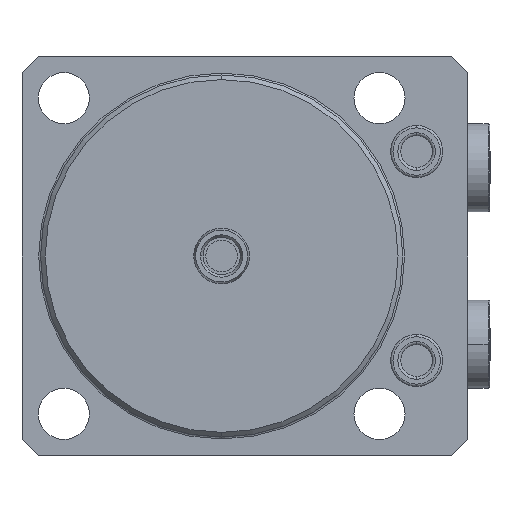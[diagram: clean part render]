
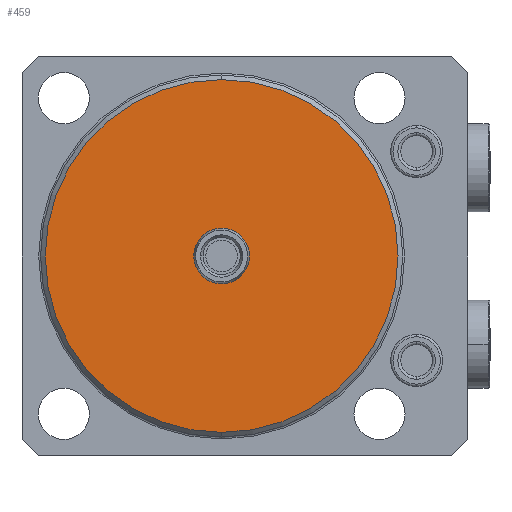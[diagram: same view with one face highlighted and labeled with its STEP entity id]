
A CAD part, front view. The second image highlights one B-rep face of the part: STEP entity #459.
In plain terms, the highlighted planar face has unit normal (0, -1, 0) as drawn and (0, 1, 0) by its records, which use the part's own axes.
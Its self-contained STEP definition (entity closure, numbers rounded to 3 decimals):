
#198=PLANE('',#4790);
#308=FACE_BOUND('',#1103,.F.);
#309=FACE_BOUND('',#1104,.F.);
#459=ADVANCED_FACE('',(#308,#309),#198,.T.);
#1103=EDGE_LOOP('',(#1956,#1957));
#1104=EDGE_LOOP('',(#1958,#1959));
#1385=CIRCLE('',#4675,6.);
#1440=CIRCLE('',#4753,38.);
#1459=CIRCLE('',#4788,6.);
#1460=CIRCLE('',#4789,38.);
#1956=ORIENTED_EDGE('',*,*,#3602,.T.);
#1957=ORIENTED_EDGE('',*,*,#3422,.T.);
#1958=ORIENTED_EDGE('',*,*,#3603,.T.);
#1959=ORIENTED_EDGE('',*,*,#3510,.T.);
#2996=VERTEX_POINT('',#6787);
#2997=VERTEX_POINT('',#6788);
#3068=VERTEX_POINT('',#6975);
#3069=VERTEX_POINT('',#6976);
#3422=EDGE_CURVE('',#2996,#2997,#1385,.T.);
#3510=EDGE_CURVE('',#3068,#3069,#1440,.T.);
#3602=EDGE_CURVE('',#2997,#2996,#1459,.T.);
#3603=EDGE_CURVE('',#3069,#3068,#1460,.T.);
#4675=AXIS2_PLACEMENT_3D('',#6786,#5317,#5318);
#4753=AXIS2_PLACEMENT_3D('',#6974,#5505,#5506);
#4788=AXIS2_PLACEMENT_3D('',#7241,#5624,#5625);
#4789=AXIS2_PLACEMENT_3D('',#7242,#5626,#5627);
#4790=AXIS2_PLACEMENT_3D('',#7243,#5628,#5629);
#5317=DIRECTION('',(0.,1.,0.));
#5318=DIRECTION('',(0.,0.,1.));
#5505=DIRECTION('',(0.,-1.,0.));
#5506=DIRECTION('',(0.,0.,1.));
#5624=DIRECTION('',(0.,1.,0.));
#5625=DIRECTION('',(0.,0.,1.));
#5626=DIRECTION('',(0.,-1.,0.));
#5627=DIRECTION('',(0.,0.,1.));
#5628=DIRECTION('',(0.,1.,0.));
#5629=DIRECTION('',(0.,0.,1.));
#6786=CARTESIAN_POINT('',(0.,-55.,0.));
#6787=CARTESIAN_POINT('',(0.,-55.,-6.));
#6788=CARTESIAN_POINT('',(0.,-55.,6.));
#6974=CARTESIAN_POINT('',(0.,-55.,0.));
#6975=CARTESIAN_POINT('',(0.,-55.,-38.));
#6976=CARTESIAN_POINT('',(0.,-55.,38.));
#7241=CARTESIAN_POINT('',(0.,-55.,0.));
#7242=CARTESIAN_POINT('',(0.,-55.,0.));
#7243=CARTESIAN_POINT('',(0.,-55.,0.));
